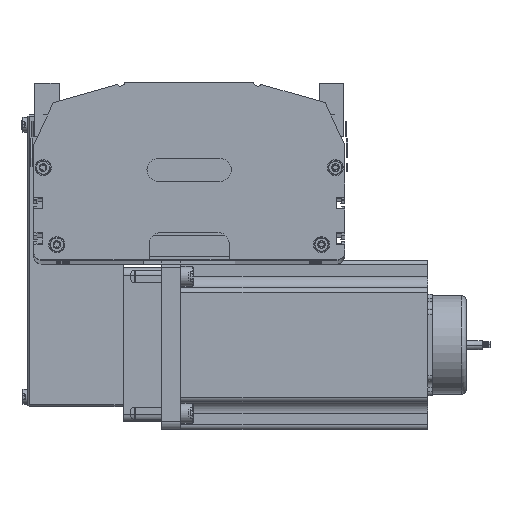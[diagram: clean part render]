
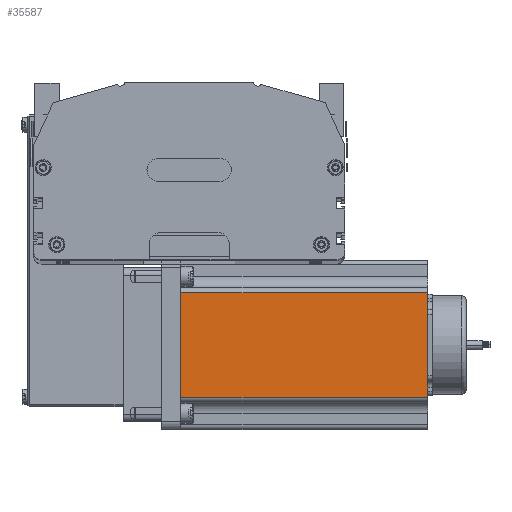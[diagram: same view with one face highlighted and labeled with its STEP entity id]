
A CAD part, top view. The second image highlights one B-rep face of the part: STEP entity #35587.
In plain terms, the highlighted planar face has unit normal (0, 0, 1) as drawn and (0, -1, 0) by its records, which use the part's own axes.
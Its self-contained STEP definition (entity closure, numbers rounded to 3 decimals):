
#35486 = EDGE_LOOP ( 'NONE', ( #35628, #35596, #35693, #35698 ) ) ;
#35488 = EDGE_CURVE ( 'NONE', #35527, #35604, #61231, .T. ) ;
#35527 = VERTEX_POINT ( 'NONE', #61301 ) ;
#35587 = ADVANCED_FACE ( 'NONE', ( #61337 ), #61357, .F. ) ;
#35589 = EDGE_CURVE ( 'NONE', #35595, #35605, #61461, .T. ) ;
#35592 = EDGE_CURVE ( 'NONE', #35604, #35605, #61348, .T. ) ;
#35595 = VERTEX_POINT ( 'NONE', #61334 ) ;
#35596 = ORIENTED_EDGE ( 'NONE', *, *, #35592, .T. ) ;
#35604 = VERTEX_POINT ( 'NONE', #61432 ) ;
#35605 = VERTEX_POINT ( 'NONE', #61433 ) ;
#35628 = ORIENTED_EDGE ( 'NONE', *, *, #35488, .T. ) ;
#35693 = ORIENTED_EDGE ( 'NONE', *, *, #35589, .F. ) ;
#35695 = EDGE_CURVE ( 'NONE', #35595, #35527, #61693, .T. ) ;
#35698 = ORIENTED_EDGE ( 'NONE', *, *, #35695, .T. ) ;
#61224 = DIRECTION ( 'NONE',  ( 1., 0., 0. ) ) ;
#61226 = VECTOR ( 'NONE', #61224, 1000. ) ;
#61229 = CARTESIAN_POINT ( 'NONE',  ( 0., 0., 0. ) ) ;
#61231 = LINE ( 'NONE', #61229, #61226 ) ;
#61301 = CARTESIAN_POINT ( 'NONE',  ( 21.048, 0., 0. ) ) ;
#61334 = CARTESIAN_POINT ( 'NONE',  ( 21.048, 0., 160.5 ) ) ;
#61337 = FACE_OUTER_BOUND ( 'NONE', #35486, .T. ) ;
#61341 = AXIS2_PLACEMENT_3D ( 'NONE', #61380, #61458, #61456 ) ;
#61348 = LINE ( 'NONE', #61447, #61445 ) ;
#61357 = PLANE ( 'NONE',  #61341 ) ;
#61380 = CARTESIAN_POINT ( 'NONE',  ( 0., 0., 160.5 ) ) ;
#61432 = CARTESIAN_POINT ( 'NONE',  ( 88.952, 0., 0. ) ) ;
#61433 = CARTESIAN_POINT ( 'NONE',  ( 88.952, 0., 160.5 ) ) ;
#61443 = DIRECTION ( 'NONE',  ( 0., 0., 1. ) ) ;
#61445 = VECTOR ( 'NONE', #61443, 1000. ) ;
#61447 = CARTESIAN_POINT ( 'NONE',  ( 88.952, 0., 160.5 ) ) ;
#61451 = DIRECTION ( 'NONE',  ( 1., 0., 0. ) ) ;
#61452 = VECTOR ( 'NONE', #61451, 1000. ) ;
#61456 = DIRECTION ( 'NONE',  ( 0., 0., 1. ) ) ;
#61458 = DIRECTION ( 'NONE',  ( 0., 1., 0. ) ) ;
#61459 = CARTESIAN_POINT ( 'NONE',  ( 0., 0., 160.5 ) ) ;
#61461 = LINE ( 'NONE', #61459, #61452 ) ;
#61683 = DIRECTION ( 'NONE',  ( 0., 0., -1. ) ) ;
#61684 = VECTOR ( 'NONE', #61683, 1000. ) ;
#61686 = CARTESIAN_POINT ( 'NONE',  ( 21.048, 0., 160.5 ) ) ;
#61693 = LINE ( 'NONE', #61686, #61684 ) ;
